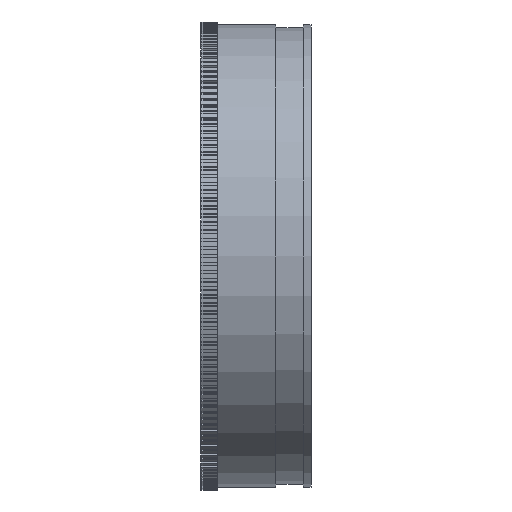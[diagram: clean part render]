
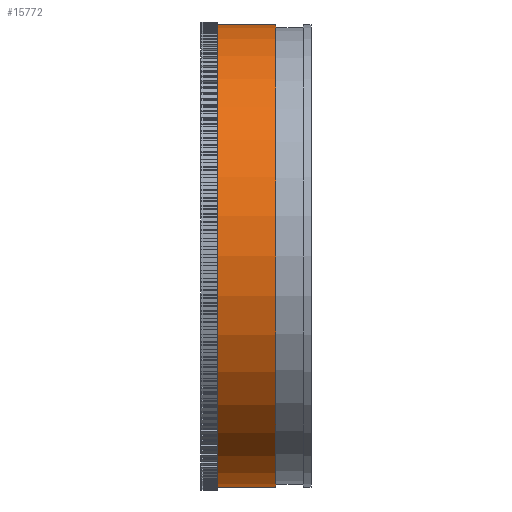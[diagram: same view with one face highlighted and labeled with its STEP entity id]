
A CAD part, front view. The second image highlights one B-rep face of the part: STEP entity #15772.
In plain terms, the highlighted cylindrical face has radius 210 mm (diameter 420 mm), a full revolution.
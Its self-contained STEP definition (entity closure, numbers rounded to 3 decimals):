
#4393=CYLINDRICAL_SURFACE($,#17018,210.);
#4523=FACE_BOUND($,#6218,.T.);
#5307=FACE_OUTER_BOUND($,#6217,.T.);
#6217=EDGE_LOOP($,(#14977));
#6218=EDGE_LOOP($,(#14978));
#6642=CIRCLE($,#16923,210.);
#6680=CIRCLE($,#17017,210.);
#8178=VERTEX_POINT($,#25752);
#8216=VERTEX_POINT($,#25884);
#10434=EDGE_CURVE($,#8178,#8178,#6642,.T.);
#10472=EDGE_CURVE($,#8216,#8216,#6680,.T.);
#14977=ORIENTED_EDGE($,*,*,#10472,.F.);
#14978=ORIENTED_EDGE($,*,*,#10434,.T.);
#15772=ADVANCED_FACE($,(#5307,#4523),#4393,.T.);
#16923=AXIS2_PLACEMENT_3D($,#25753,#21112,#21113);
#17017=AXIS2_PLACEMENT_3D($,#25885,#21300,#21301);
#17018=AXIS2_PLACEMENT_3D($,#25886,#21302,#21303);
#21112=DIRECTION('center_axis',(1.,0.,0.));
#21113=DIRECTION('ref_axis',(0.,1.,0.));
#21300=DIRECTION('center_axis',(1.,0.,0.));
#21301=DIRECTION('ref_axis',(0.,1.,0.));
#21302=DIRECTION('center_axis',(1.,0.,0.));
#21303=DIRECTION('ref_axis',(0.,1.,0.));
#25752=CARTESIAN_POINT('',(-35.,210.,0.));
#25753=CARTESIAN_POINT('Origin',(-35.,0.,0.));
#25884=CARTESIAN_POINT('',(18.,210.,0.));
#25885=CARTESIAN_POINT('Origin',(18.,0.,0.));
#25886=CARTESIAN_POINT('Origin',(-8.5,0.,0.));
